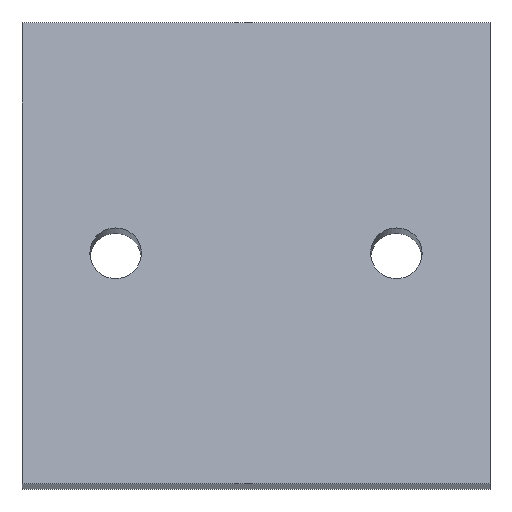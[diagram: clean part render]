
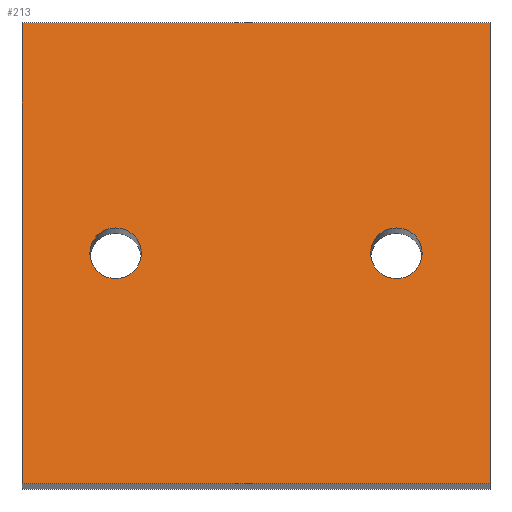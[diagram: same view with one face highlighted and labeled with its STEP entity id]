
A CAD part, front view. The second image highlights one B-rep face of the part: STEP entity #213.
In plain terms, the highlighted planar face has unit normal (0, -0.985, 0.174).
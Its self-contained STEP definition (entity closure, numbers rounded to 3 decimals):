
#37=CARTESIAN_POINT('',(-328.5,-280.274,1066.16));
#38=VERTEX_POINT('',#37);
#45=CARTESIAN_POINT('',(-388.5,-280.274,1066.16));
#46=VERTEX_POINT('',#45);
#47=CARTESIAN_POINT('',(-388.5,-280.274,1066.16));
#48=DIRECTION('',(1.0,0.0,0.0));
#49=VECTOR('',#48,1.);
#50=LINE('',#47,#49);
#51=EDGE_CURVE('',#46,#38,#50,.T.);
#75=CARTESIAN_POINT('',(-328.5,-269.855,1125.249));
#76=VERTEX_POINT('',#75);
#83=CARTESIAN_POINT('',(-328.5,-280.274,1066.16));
#84=DIRECTION('',(0.,0.174,0.985));
#85=VECTOR('',#84,1.);
#86=LINE('',#83,#85);
#87=EDGE_CURVE('',#38,#76,#86,.T.);
#106=CARTESIAN_POINT('',(-388.5,-269.855,1125.249));
#107=VERTEX_POINT('',#106);
#114=CARTESIAN_POINT('',(-328.5,-269.855,1125.249));
#115=DIRECTION('',(-1.0,0.,0.));
#116=VECTOR('',#115,1.);
#117=LINE('',#114,#116);
#118=EDGE_CURVE('',#76,#107,#117,.T.);
#136=CARTESIAN_POINT('',(-388.5,-269.855,1125.249));
#137=DIRECTION('',(0.,-0.174,-0.985));
#138=VECTOR('',#137,1.);
#139=LINE('',#136,#138);
#140=EDGE_CURVE('',#107,#46,#139,.T.);
#180=CARTESIAN_POINT('',(-388.5,-280.274,1066.16));
#181=DIRECTION('',(0.0,-0.985,0.174));
#182=DIRECTION('',(1.0,0.0,0.0));
#183=AXIS2_PLACEMENT_3D('',#180,#181,#182);
#184=PLANE('',#183);
#185=ORIENTED_EDGE('',*,*,#51,.T.);
#186=ORIENTED_EDGE('',*,*,#87,.T.);
#187=ORIENTED_EDGE('',*,*,#118,.T.);
#188=ORIENTED_EDGE('',*,*,#140,.T.);
#189=EDGE_LOOP('',(#185,#186,#187,#188));
#190=FACE_OUTER_BOUND('',#189,.T.);
#191=CARTESIAN_POINT('',(-373.2,-275.065,1095.704));
#192=VERTEX_POINT('',#191);
#193=CARTESIAN_POINT('',(-376.5,-275.065,1095.704));
#194=DIRECTION('',(0.0,-0.985,0.174));
#195=DIRECTION('',(1.0,0.0,0.0));
#196=AXIS2_PLACEMENT_3D('',#193,#194,#195);
#197=CIRCLE('',#196,3.3);
#198=EDGE_CURVE('',#192,#192,#197,.T.);
#199=ORIENTED_EDGE('',*,*,#198,.F.);
#200=EDGE_LOOP('',(#199));
#201=FACE_BOUND('',#200,.T.);
#202=CARTESIAN_POINT('',(-337.2,-275.065,1095.704));
#203=VERTEX_POINT('',#202);
#204=CARTESIAN_POINT('',(-340.5,-275.065,1095.704));
#205=DIRECTION('',(0.0,-0.985,0.174));
#206=DIRECTION('',(1.0,0.0,0.0));
#207=AXIS2_PLACEMENT_3D('',#204,#205,#206);
#208=CIRCLE('',#207,3.3);
#209=EDGE_CURVE('',#203,#203,#208,.T.);
#210=ORIENTED_EDGE('',*,*,#209,.F.);
#211=EDGE_LOOP('',(#210));
#212=FACE_BOUND('',#211,.T.);
#213=ADVANCED_FACE('',(#190,#201,#212),#184,.T.);
